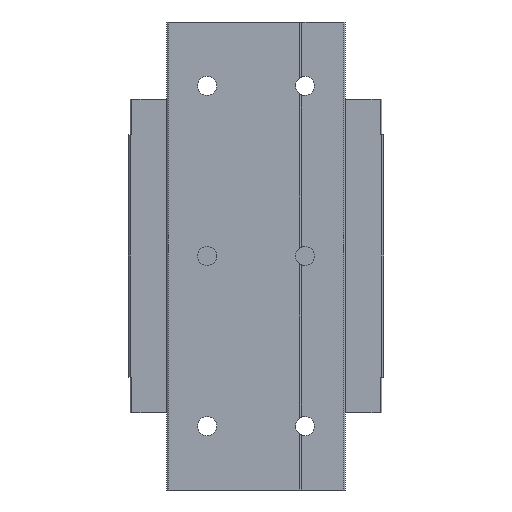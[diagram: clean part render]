
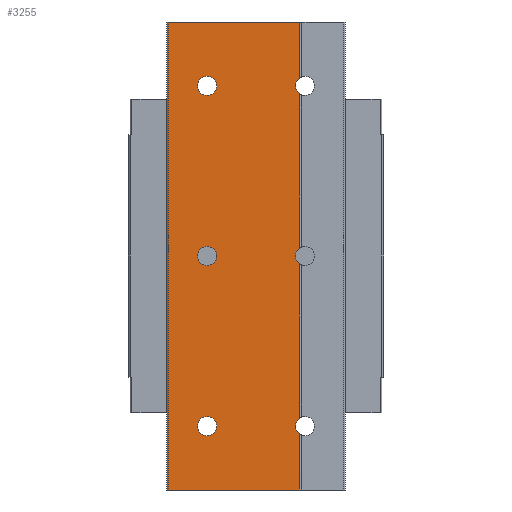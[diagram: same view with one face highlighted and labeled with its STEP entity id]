
A CAD part, front view. The second image highlights one B-rep face of the part: STEP entity #3255.
In plain terms, the highlighted planar face has unit normal (0, -1, 0).
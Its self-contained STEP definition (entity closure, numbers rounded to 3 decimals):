
#13 = ORIENTED_EDGE ( 'NONE', *, *, #3644, .F. ) ;
#139 = EDGE_CURVE ( 'NONE', #4557, #3145, #5344, .T. ) ;
#140 = CARTESIAN_POINT ( 'NONE',  ( 11.5, 0., 0. ) ) ;
#203 = ORIENTED_EDGE ( 'NONE', *, *, #5592, .F. ) ;
#211 = CARTESIAN_POINT ( 'NONE',  ( 10.2, 0., 38.164 ) ) ;
#262 = CARTESIAN_POINT ( 'NONE',  ( -11.5, 0., 0. ) ) ;
#304 = EDGE_CURVE ( 'NONE', #725, #4742, #4537, .T. ) ;
#315 = DIRECTION ( 'NONE',  ( 0., 0., -1. ) ) ;
#320 = LINE ( 'NONE', #4658, #3844 ) ;
#369 = ORIENTED_EDGE ( 'NONE', *, *, #5309, .F. ) ;
#438 = VERTEX_POINT ( 'NONE', #211 ) ;
#441 = DIRECTION ( 'NONE',  ( 0., 0., -1. ) ) ;
#518 = ORIENTED_EDGE ( 'NONE', *, *, #4316, .F. ) ;
#520 = EDGE_CURVE ( 'NONE', #4742, #4445, #320, .T. ) ;
#591 = ORIENTED_EDGE ( 'NONE', *, *, #1951, .F. ) ;
#654 = CIRCLE ( 'NONE', #2633, 2.25 ) ;
#685 = VECTOR ( 'NONE', #780, 1000. ) ;
#700 = DIRECTION ( 'NONE',  ( 0., 0., -1. ) ) ;
#725 = VERTEX_POINT ( 'NONE', #1010 ) ;
#735 = EDGE_CURVE ( 'NONE', #2306, #725, #2824, .T. ) ;
#780 = DIRECTION ( 'NONE',  ( 0., 0., -1. ) ) ;
#961 = FACE_BOUND ( 'NONE', #3021, .T. ) ;
#1000 = EDGE_CURVE ( 'NONE', #3145, #4557, #5487, .T. ) ;
#1010 = CARTESIAN_POINT ( 'NONE',  ( 10.2, 0., -41.836 ) ) ;
#1032 = VECTOR ( 'NONE', #2511, 1000. ) ;
#1040 = CIRCLE ( 'NONE', #3267, 2.25 ) ;
#1050 = VECTOR ( 'NONE', #2928, 1000. ) ;
#1173 = DIRECTION ( 'NONE',  ( 0., -1., 0. ) ) ;
#1181 = VECTOR ( 'NONE', #4634, 1000. ) ;
#1204 = VERTEX_POINT ( 'NONE', #1299 ) ;
#1209 = CARTESIAN_POINT ( 'NONE',  ( 10.2, 0., 55. ) ) ;
#1226 = DIRECTION ( 'NONE',  ( 0., -1., 0. ) ) ;
#1274 = DIRECTION ( 'NONE',  ( 0., 1., 0. ) ) ;
#1299 = CARTESIAN_POINT ( 'NONE',  ( -11.5, 0., 42.25 ) ) ;
#1342 = EDGE_CURVE ( 'NONE', #2702, #2791, #3221, .T. ) ;
#1392 = DIRECTION ( 'NONE',  ( 0., 0., -1. ) ) ;
#1426 = ORIENTED_EDGE ( 'NONE', *, *, #1342, .F. ) ;
#1464 = EDGE_CURVE ( 'NONE', #2791, #2306, #3007, .T. ) ;
#1497 = CIRCLE ( 'NONE', #1948, 2.25 ) ;
#1525 = CARTESIAN_POINT ( 'NONE',  ( -11.5, 0., -37.75 ) ) ;
#1648 = EDGE_LOOP ( 'NONE', ( #369, #4631 ) ) ;
#1678 = AXIS2_PLACEMENT_3D ( 'NONE', #4207, #1274, #5392 ) ;
#1694 = DIRECTION ( 'NONE',  ( 0., 0., -1. ) ) ;
#1779 = ORIENTED_EDGE ( 'NONE', *, *, #3020, .F. ) ;
#1790 = AXIS2_PLACEMENT_3D ( 'NONE', #140, #2743, #3714 ) ;
#1809 = DIRECTION ( 'NONE',  ( 0., -1., 0. ) ) ;
#1948 = AXIS2_PLACEMENT_3D ( 'NONE', #262, #1173, #315 ) ;
#1951 = EDGE_CURVE ( 'NONE', #2693, #438, #654, .T. ) ;
#1961 = CARTESIAN_POINT ( 'NONE',  ( 10.2, 0., 55. ) ) ;
#2039 = EDGE_CURVE ( 'NONE', #4061, #5373, #2979, .T. ) ;
#2074 = AXIS2_PLACEMENT_3D ( 'NONE', #4200, #4119, #2878 ) ;
#2179 = AXIS2_PLACEMENT_3D ( 'NONE', #4354, #5558, #1694 ) ;
#2235 = FACE_OUTER_BOUND ( 'NONE', #2543, .T. ) ;
#2306 = VERTEX_POINT ( 'NONE', #3214 ) ;
#2352 = LINE ( 'NONE', #3270, #3699 ) ;
#2388 = CARTESIAN_POINT ( 'NONE',  ( -11.5, 0., 40. ) ) ;
#2434 = CARTESIAN_POINT ( 'NONE',  ( 10.2, 0., -1.836 ) ) ;
#2456 = CARTESIAN_POINT ( 'NONE',  ( 10.2, 0., 55. ) ) ;
#2510 = ORIENTED_EDGE ( 'NONE', *, *, #139, .F. ) ;
#2511 = DIRECTION ( 'NONE',  ( 0., 0., -1. ) ) ;
#2516 = CARTESIAN_POINT ( 'NONE',  ( 11.5, 0., 40. ) ) ;
#2543 = EDGE_LOOP ( 'NONE', ( #3650, #2677, #1426, #203, #591, #4470, #3964, #13, #5174, #5320 ) ) ;
#2577 = CIRCLE ( 'NONE', #3289, 2.25 ) ;
#2596 = LINE ( 'NONE', #5553, #4946 ) ;
#2633 = AXIS2_PLACEMENT_3D ( 'NONE', #2516, #1226, #5441 ) ;
#2673 = FACE_BOUND ( 'NONE', #1648, .T. ) ;
#2677 = ORIENTED_EDGE ( 'NONE', *, *, #1464, .F. ) ;
#2693 = VERTEX_POINT ( 'NONE', #3132 ) ;
#2702 = VERTEX_POINT ( 'NONE', #2722 ) ;
#2722 = CARTESIAN_POINT ( 'NONE',  ( 10.2, 0., 1.836 ) ) ;
#2743 = DIRECTION ( 'NONE',  ( 0., -1., 0. ) ) ;
#2758 = VERTEX_POINT ( 'NONE', #3342 ) ;
#2791 = VERTEX_POINT ( 'NONE', #2434 ) ;
#2824 = CIRCLE ( 'NONE', #4209, 2.25 ) ;
#2863 = DIRECTION ( 'NONE',  ( 0., -1., 0. ) ) ;
#2878 = DIRECTION ( 'NONE',  ( 0., 0., -1. ) ) ;
#2896 = CARTESIAN_POINT ( 'NONE',  ( -11.5, 0., 2.25 ) ) ;
#2928 = DIRECTION ( 'NONE',  ( -1., 0., 0. ) ) ;
#2929 = CARTESIAN_POINT ( 'NONE',  ( -11.5, 0., -42.25 ) ) ;
#2947 = CARTESIAN_POINT ( 'NONE',  ( -20.6, 0., -55. ) ) ;
#2958 = VERTEX_POINT ( 'NONE', #5003 ) ;
#2979 = CIRCLE ( 'NONE', #4583, 2.25 ) ;
#3007 = LINE ( 'NONE', #1209, #1181 ) ;
#3019 = DIRECTION ( 'NONE',  ( 0., 0., -1. ) ) ;
#3020 = EDGE_CURVE ( 'NONE', #1204, #2958, #2577, .T. ) ;
#3021 = EDGE_LOOP ( 'NONE', ( #3639, #2510 ) ) ;
#3132 = CARTESIAN_POINT ( 'NONE',  ( 10.2, 0., 41.836 ) ) ;
#3145 = VERTEX_POINT ( 'NONE', #2929 ) ;
#3214 = CARTESIAN_POINT ( 'NONE',  ( 10.2, 0., -38.164 ) ) ;
#3221 = CIRCLE ( 'NONE', #1790, 2.25 ) ;
#3255 = ADVANCED_FACE ( 'NONE', ( #961, #2673, #4370, #2235 ), #4835, .F. ) ;
#3267 = AXIS2_PLACEMENT_3D ( 'NONE', #2388, #2863, #700 ) ;
#3270 = CARTESIAN_POINT ( 'NONE',  ( 10.2, 0., 55. ) ) ;
#3289 = AXIS2_PLACEMENT_3D ( 'NONE', #4725, #3390, #441 ) ;
#3308 = LINE ( 'NONE', #5477, #1050 ) ;
#3342 = CARTESIAN_POINT ( 'NONE',  ( -20.6, 0., 55. ) ) ;
#3390 = DIRECTION ( 'NONE',  ( 0., -1., 0. ) ) ;
#3479 = CARTESIAN_POINT ( 'NONE',  ( 10.2, 0., -55. ) ) ;
#3639 = ORIENTED_EDGE ( 'NONE', *, *, #1000, .F. ) ;
#3644 = EDGE_CURVE ( 'NONE', #4445, #2758, #2596, .T. ) ;
#3650 = ORIENTED_EDGE ( 'NONE', *, *, #735, .F. ) ;
#3699 = VECTOR ( 'NONE', #3726, 1000. ) ;
#3714 = DIRECTION ( 'NONE',  ( 0., 0., -1. ) ) ;
#3726 = DIRECTION ( 'NONE',  ( 0., 0., -1. ) ) ;
#3844 = VECTOR ( 'NONE', #5539, 1000. ) ;
#3913 = CARTESIAN_POINT ( 'NONE',  ( -11.5, 0., 0. ) ) ;
#3964 = ORIENTED_EDGE ( 'NONE', *, *, #4902, .T. ) ;
#4051 = CARTESIAN_POINT ( 'NONE',  ( -11.5, 0., -2.25 ) ) ;
#4061 = VERTEX_POINT ( 'NONE', #2896 ) ;
#4079 = LINE ( 'NONE', #4158, #685 ) ;
#4119 = DIRECTION ( 'NONE',  ( 0., -1., 0. ) ) ;
#4158 = CARTESIAN_POINT ( 'NONE',  ( 10.2, 0., 55. ) ) ;
#4200 = CARTESIAN_POINT ( 'NONE',  ( -11.5, 0., -40. ) ) ;
#4207 = CARTESIAN_POINT ( 'NONE',  ( -21., 0., 55. ) ) ;
#4209 = AXIS2_PLACEMENT_3D ( 'NONE', #4804, #5249, #1392 ) ;
#4316 = EDGE_CURVE ( 'NONE', #2958, #1204, #1040, .T. ) ;
#4354 = CARTESIAN_POINT ( 'NONE',  ( -11.5, 0., -40. ) ) ;
#4370 = FACE_BOUND ( 'NONE', #4423, .T. ) ;
#4423 = EDGE_LOOP ( 'NONE', ( #518, #1779 ) ) ;
#4445 = VERTEX_POINT ( 'NONE', #2947 ) ;
#4470 = ORIENTED_EDGE ( 'NONE', *, *, #5333, .F. ) ;
#4537 = LINE ( 'NONE', #2456, #1032 ) ;
#4557 = VERTEX_POINT ( 'NONE', #1525 ) ;
#4583 = AXIS2_PLACEMENT_3D ( 'NONE', #3913, #1809, #3019 ) ;
#4631 = ORIENTED_EDGE ( 'NONE', *, *, #2039, .F. ) ;
#4634 = DIRECTION ( 'NONE',  ( 0., 0., -1. ) ) ;
#4658 = CARTESIAN_POINT ( 'NONE',  ( 10.5, 0., -55. ) ) ;
#4725 = CARTESIAN_POINT ( 'NONE',  ( -11.5, 0., 40. ) ) ;
#4742 = VERTEX_POINT ( 'NONE', #3479 ) ;
#4804 = CARTESIAN_POINT ( 'NONE',  ( 11.5, 0., -40. ) ) ;
#4835 = PLANE ( 'NONE',  #1678 ) ;
#4902 = EDGE_CURVE ( 'NONE', #5573, #2758, #3308, .T. ) ;
#4946 = VECTOR ( 'NONE', #5146, 1000. ) ;
#5003 = CARTESIAN_POINT ( 'NONE',  ( -11.5, 0., 37.75 ) ) ;
#5146 = DIRECTION ( 'NONE',  ( 0., 0., 1. ) ) ;
#5174 = ORIENTED_EDGE ( 'NONE', *, *, #520, .F. ) ;
#5249 = DIRECTION ( 'NONE',  ( 0., -1., 0. ) ) ;
#5309 = EDGE_CURVE ( 'NONE', #5373, #4061, #1497, .T. ) ;
#5320 = ORIENTED_EDGE ( 'NONE', *, *, #304, .F. ) ;
#5333 = EDGE_CURVE ( 'NONE', #5573, #2693, #4079, .T. ) ;
#5344 = CIRCLE ( 'NONE', #2179, 2.25 ) ;
#5373 = VERTEX_POINT ( 'NONE', #4051 ) ;
#5392 = DIRECTION ( 'NONE',  ( 1., 0., 0. ) ) ;
#5441 = DIRECTION ( 'NONE',  ( 0., 0., -1. ) ) ;
#5477 = CARTESIAN_POINT ( 'NONE',  ( 10.5, 0., 55. ) ) ;
#5487 = CIRCLE ( 'NONE', #2074, 2.25 ) ;
#5539 = DIRECTION ( 'NONE',  ( -1., 0., 0. ) ) ;
#5553 = CARTESIAN_POINT ( 'NONE',  ( -20.6, 0., 55. ) ) ;
#5558 = DIRECTION ( 'NONE',  ( 0., -1., 0. ) ) ;
#5573 = VERTEX_POINT ( 'NONE', #1961 ) ;
#5592 = EDGE_CURVE ( 'NONE', #438, #2702, #2352, .T. ) ;
